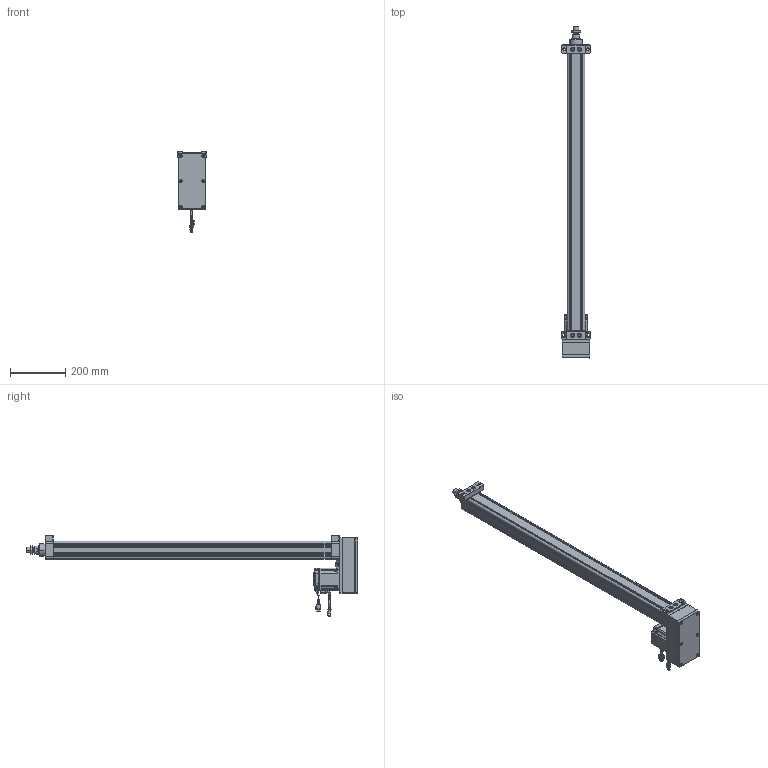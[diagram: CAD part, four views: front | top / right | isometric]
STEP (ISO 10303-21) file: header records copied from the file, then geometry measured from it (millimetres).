
FILE_DESCRIPTION((''),'2;1');
FILE_NAME('HE50-D-100-X1_ASM','2020-05-08T',('ASUS20200'),(''),'CREO PARAMETRIC BY PTC INC, 2014190','CREO PARAMETRIC BY PTC INC, 2014190','');
FILE_SCHEMA(('CONFIG_CONTROL_DESIGN'));
Products named in the file (32): HE50-D-P-001-X1; HE50-D-P-002-X1; HE50-D-P-003-X1; 6301ZZ; LGLM-M8-22; SLM-01; YZ-M6X1; HE50-P-010-X1-400W; _MHMF082L1A2; _CABLE_MOTOR_BOTTOM_05; _CABLE_MOTOR_TOP_05; _MOTOR_CONNECTOR_2; _CABLE_BRAKE_BOTTOM_05; _CABLE_BRAKE_TOP_05; _MHMF_CONNECTOR_9_PIN_A6; MHMF082L1A2M2_1_ASM; TD-6; M6X25; LM-M6X1; JX6X6X20; M6X25-DS; LM-M6-15; HE50-P-012-X1; HE50-P-013-X1; M6X60; HE50-P-015-X1; HE50-P-016-X1; M8X25; HE50-D-P-005-X1; HE50-D-P-004-X1; HE50-D-P-008-X1; HE50-D-100-X1_ASM
Assembly tree (56 placements, depth 3):
  HE50-D-100-X1_ASM
    HE50-D-P-001-X1
    HE50-D-P-002-X1
    HE50-D-P-003-X1
    6301ZZ
    LGLM-M8-22  x8
    SLM-01
    YZ-M6X1
    HE50-P-010-X1-400W
    MHMF082L1A2M2_1_ASM
      _MHMF082L1A2
      _CABLE_MOTOR_BOTTOM_05
      _CABLE_MOTOR_TOP_05
      _MOTOR_CONNECTOR_2
      _CABLE_BRAKE_BOTTOM_05
      _CABLE_BRAKE_TOP_05
      _MHMF_CONNECTOR_9_PIN_A6
    TD-6  x4
    M6X25  x4
    LM-M6X1  x5
    JX6X6X20
    M6X25-DS
    LM-M6-15
    HE50-P-012-X1
    HE50-P-013-X1
    M6X60  x6
    HE50-P-015-X1
    HE50-P-016-X1
    M8X25  x4
    HE50-D-P-005-X1
    HE50-D-P-004-X1
    HE50-D-P-008-X1
Bounding box: 105 x 1198.5 x 290.65 mm (x, y, z)
Volume: 3249440.8 mm3; surface area: 950512.3 mm2
Topology: 55 solids, 89 shells, 3282 faces, 7865 edges, 4852 vertices
Faces by surface type: plane 1437, cylinder 871, cone 777, torus 154, sphere 42, bspline 1
Entity records: 79572 total; most frequent: CARTESIAN_POINT 14965, DIRECTION 14079, ORIENTED_EDGE 12732, EDGE_CURVE 6427, AXIS2_PLACEMENT_3D 5193, VERTEX_POINT 3993, VECTOR 3693, LINE 3693
